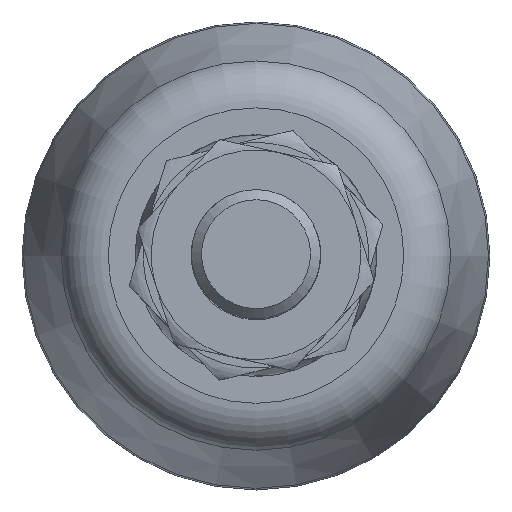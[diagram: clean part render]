
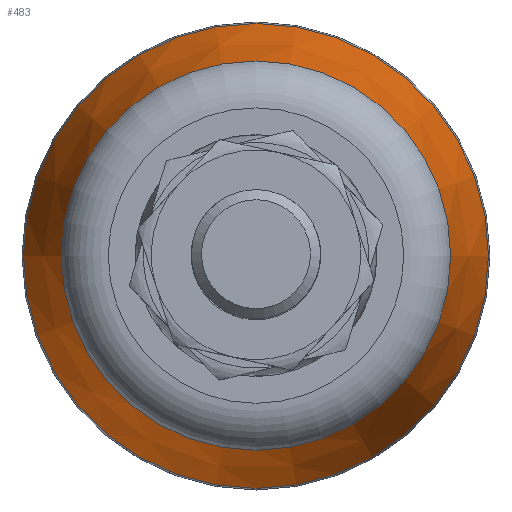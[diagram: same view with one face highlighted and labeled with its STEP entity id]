
A CAD part, top view. The second image highlights one B-rep face of the part: STEP entity #483.
In plain terms, the highlighted conical face has half-angle 14.036 degrees and reference radius 12.068 mm.
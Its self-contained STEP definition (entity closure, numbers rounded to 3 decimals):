
#483=ADVANCED_FACE('',(#812,#813),#814,.T.);
#812=FACE_BOUND('',#1109,.T.);
#813=FACE_OUTER_BOUND('',#1110,.T.);
#814=CONICAL_SURFACE('',#1111,12.068,0.245);
#1109=EDGE_LOOP('',(#1725));
#1110=EDGE_LOOP('',(#1726));
#1111=AXIS2_PLACEMENT_3D('',#1727,#1728,#1729);
#1725=ORIENTED_EDGE('',*,*,#1942,.T.);
#1726=ORIENTED_EDGE('',*,*,#1966,.F.);
#1727=CARTESIAN_POINT('',(0.0,0.0,15.728));
#1728=DIRECTION('',(-0.0,0.0,-1.0));
#1729=DIRECTION('',(-1.0,0.0,0.0));
#1942=EDGE_CURVE('',#2258,#2258,#2259,.T.);
#1966=EDGE_CURVE('',#2294,#2294,#2295,.T.);
#2258=VERTEX_POINT('',#3149);
#2259=CIRCLE('',#3150,12.068);
#2294=VERTEX_POINT('',#3185);
#2295=CIRCLE('',#3186,14.41);
#3149=CARTESIAN_POINT('',(-12.068,0.0,15.728));
#3150=AXIS2_PLACEMENT_3D('',#3399,#3400,#3401);
#3185=CARTESIAN_POINT('',(-14.41,0.0,6.358));
#3186=AXIS2_PLACEMENT_3D('',#3435,#3436,#3437);
#3399=CARTESIAN_POINT('',(0.0,0.0,15.728));
#3400=DIRECTION('',(0.0,0.0,-1.0));
#3401=DIRECTION('',(-1.0,0.0,0.0));
#3435=CARTESIAN_POINT('',(0.0,0.0,6.358));
#3436=DIRECTION('',(0.0,0.0,-1.0));
#3437=DIRECTION('',(-1.0,0.0,0.0));
